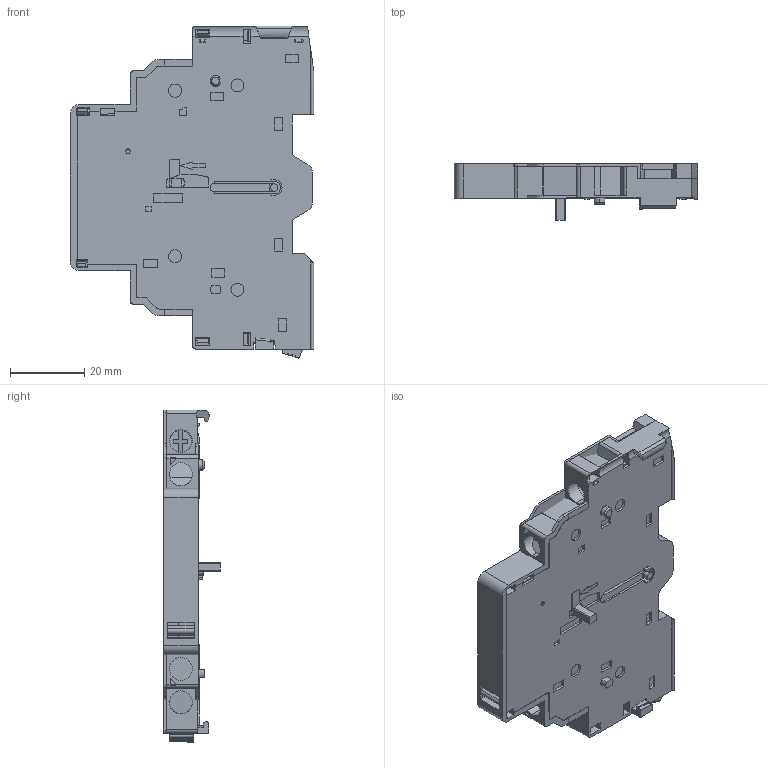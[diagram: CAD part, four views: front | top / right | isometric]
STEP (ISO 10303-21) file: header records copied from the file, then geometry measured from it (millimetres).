
FILE_DESCRIPTION((''),'2;1');
FILE_NAME('NS2-AU','2022-03-06T09:34:19',('lishuai1'),(''),'CREO PARAMETRIC BY PTC INC, 2020044','CREO PARAMETRIC BY PTC INC, 2020044','');
FILE_SCHEMA(('CONFIG_CONTROL_DESIGN','SHAPE_APPEARANCE_LAYERS_GROUPS'));
Length unit declared in the file: millimetre
Products named in the file (1): NS2-AU
Bounding box: 65.5 x 15.2 x 89.39 mm (x, y, z)
Surface area: 19148.5 mm2 (no closed solid volume)
Topology: 0 solids, 18 shells, 438 faces, 1819 edges, 1356 vertices
Faces by surface type: plane 341, cylinder 87, sphere 8, cone 2
Entity records: 19624 total; most frequent: CARTESIAN_POINT 3815, DIRECTION 2954, ORIENTED_EDGE 2848, EDGE_CURVE 1811, VECTOR 1490, LINE 1490, VERTEX_POINT 1357, AXIS2_PLACEMENT_3D 732
